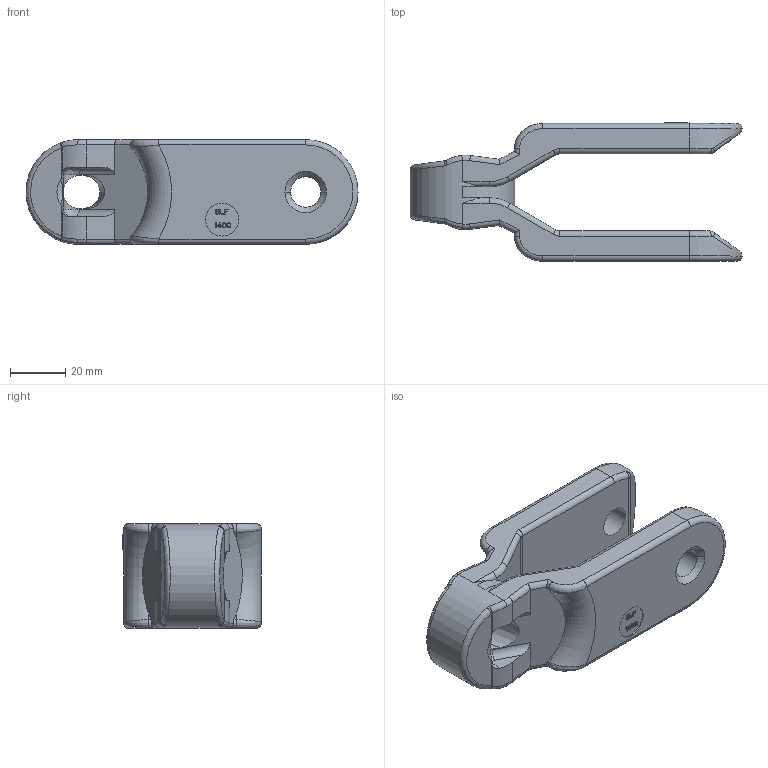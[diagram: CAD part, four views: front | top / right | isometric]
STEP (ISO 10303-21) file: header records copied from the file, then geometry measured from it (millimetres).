
FILE_DESCRIPTION((''),'2;1');
FILE_NAME('P530','2015-11-20T',('bhe'),(''),'CREO PARAMETRIC BY PTC INC, 2015290','CREO PARAMETRIC BY PTC INC, 2015290','');
FILE_SCHEMA(('CONFIG_CONTROL_DESIGN'));
Length unit declared in the file: millimetre
Products named in the file (1): P530
Bounding box: 120.5 x 50.3 x 38 mm (x, y, z)
Volume: 88049.9 mm3; surface area: 22312.6 mm2
Topology: 1 solids, 1 shells, 538 faces, 1463 edges, 950 vertices
Faces by surface type: plane 397, cylinder 85, bspline 32, torus 20, cone 4
Entity records: 18977 total; most frequent: CARTESIAN_POINT 5550, ORIENTED_EDGE 2926, DIRECTION 2538, EDGE_CURVE 1463, VECTOR 1184, LINE 1184, VERTEX_POINT 950, AXIS2_PLACEMENT_3D 677
